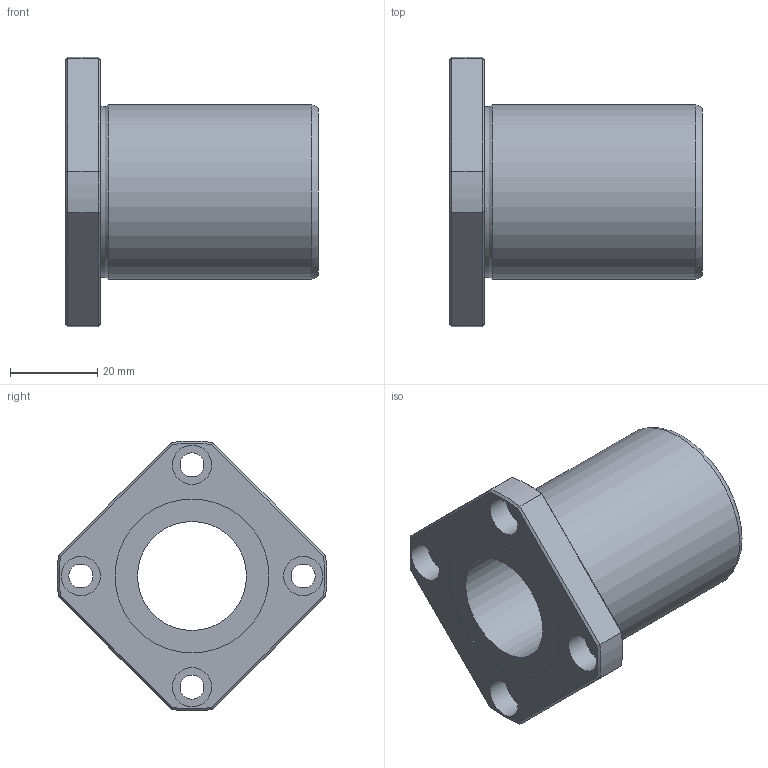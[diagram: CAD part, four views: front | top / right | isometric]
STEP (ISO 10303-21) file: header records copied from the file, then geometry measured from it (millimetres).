
FILE_DESCRIPTION((''),'2;1');
FILE_NAME('D:\製品 (図面)\カタログ用3D\リニアベアリング関連\STEP形式\LFK\LFK25.stp','2010-06-04T08:49:39',('Tsuchiya'),(''),'Autodesk Inventor 10','Autodesk Inventor 10','');
FILE_SCHEMA(('AUTOMOTIVE_DESIGN { 1 0 10303 214 1 1 1 1 }'));
Length unit declared in the file: millimetre
Products named in the file (1): LFK25
Bounding box: 58 x 61.92 x 61.92 mm (x, y, z)
Volume: 51828.7 mm3; surface area: 16660.4 mm2
Topology: 1 solids, 1 shells, 47 faces, 96 edges, 58 vertices
Faces by surface type: plane 21, cylinder 16, cone 8, torus 1, bspline 1
Full cylindrical faces by diameter (mm): 5.5 x4, 9 x4, 25 x1, 35.3 x2, 40 x1
Entity records: 1275 total; most frequent: CARTESIAN_POINT 298, DIRECTION 202, ORIENTED_EDGE 164, AXIS2_PLACEMENT_3D 89, EDGE_CURVE 82, EDGE_LOOP 78, VERTEX_POINT 58, FACE_OUTER_BOUND 47
